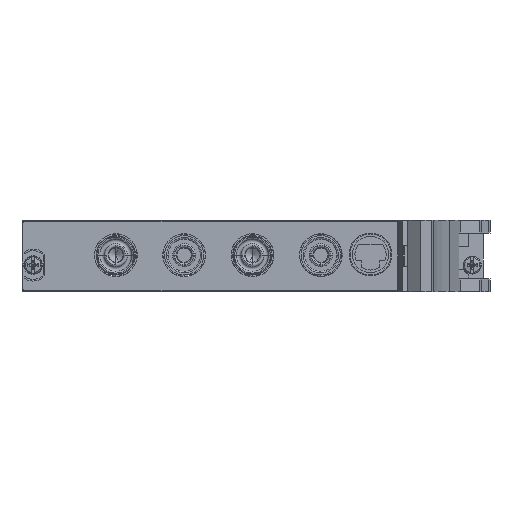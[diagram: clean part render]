
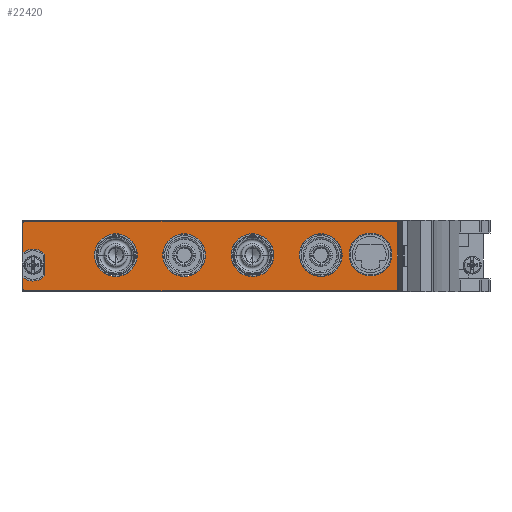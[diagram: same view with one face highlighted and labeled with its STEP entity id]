
A CAD part, left-side view. The second image highlights one B-rep face of the part: STEP entity #22420.
In plain terms, the highlighted planar face has unit normal (-1, 0, 0).
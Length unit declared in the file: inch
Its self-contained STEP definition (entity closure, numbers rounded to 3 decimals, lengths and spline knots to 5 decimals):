
#17046=CARTESIAN_POINT('',(-0.215,0.53465,0.665));
#17047=DIRECTION('',(-1.,0.,0.));
#17048=DIRECTION('',(0.,0.,1.));
#17049=AXIS2_PLACEMENT_3D('',#17046,#17047,#17048);
#17051=DIRECTION('',(0.,1.,0.));
#17052=VECTOR('',#17051,4.07);
#17053=CARTESIAN_POINT('',(-0.215,-3.53535,0.685));
#17054=LINE('',#17053,#17052);
#17055=CARTESIAN_POINT('',(-0.215,-3.53535,0.665));
#17056=DIRECTION('',(-1.,0.,0.));
#17057=DIRECTION('',(0.,-1.,0.));
#17058=AXIS2_PLACEMENT_3D('',#17055,#17056,#17057);
#17060=DIRECTION('',(0.,0.,1.));
#17061=VECTOR('',#17060,0.728);
#17062=CARTESIAN_POINT('',(-0.215,-3.55535,-0.063));
#17063=LINE('',#17062,#17061);
#17064=CARTESIAN_POINT('',(-0.215,-3.53535,-0.063));
#17065=DIRECTION('',(-1.,0.,0.));
#17066=DIRECTION('',(0.,0.,-1.));
#17067=AXIS2_PLACEMENT_3D('',#17064,#17065,#17066);
#17069=DIRECTION('',(0.,-1.,0.));
#17070=VECTOR('',#17069,4.07);
#17071=CARTESIAN_POINT('',(-0.215,0.53465,-0.083));
#17072=LINE('',#17071,#17070);
#17073=CARTESIAN_POINT('',(-0.215,0.53465,-0.063));
#17074=DIRECTION('',(-1.,0.,0.));
#17075=DIRECTION('',(0.,1.,0.));
#17076=AXIS2_PLACEMENT_3D('',#17073,#17074,#17075);
#17078=DIRECTION('',(0.,0.,-1.));
#17079=VECTOR('',#17078,0.12953);
#17080=CARTESIAN_POINT('',(-0.215,0.55465,0.06653));
#17081=LINE('',#17080,#17079);
#17082=CARTESIAN_POINT('',(-0.215,0.44265,0.201));
#17083=DIRECTION('',(1.,0.,0.));
#17084=DIRECTION('',(0.,-0.737,-0.676));
#17085=AXIS2_PLACEMENT_3D('',#17082,#17083,#17084);
#17087=DIRECTION('',(0.,0.,-1.));
#17088=VECTOR('',#17087,0.23651);
#17089=CARTESIAN_POINT('',(-0.215,0.31365,0.31925));
#17090=LINE('',#17089,#17088);
#17091=CARTESIAN_POINT('',(-0.215,0.44265,0.201));
#17092=DIRECTION('',(1.,0.,0.));
#17093=DIRECTION('',(0.,0.64,0.768));
#17094=AXIS2_PLACEMENT_3D('',#17091,#17092,#17093);
#17096=DIRECTION('',(0.,0.,-1.));
#17097=VECTOR('',#17096,0.32953);
#17098=CARTESIAN_POINT('',(-0.215,0.55465,0.665));
#17099=LINE('',#17098,#17097);
#17100=CARTESIAN_POINT('',(-0.215,-0.46535,0.31));
#17101=DIRECTION('',(-1.,0.,0.));
#17102=DIRECTION('',(0.,0.,1.));
#17103=AXIS2_PLACEMENT_3D('',#17100,#17101,#17102);
#17105=CARTESIAN_POINT('',(-0.215,-0.46535,0.31));
#17106=DIRECTION('',(-1.,0.,0.));
#17107=DIRECTION('',(0.,0.,-1.));
#17108=AXIS2_PLACEMENT_3D('',#17105,#17106,#17107);
#17110=CARTESIAN_POINT('',(-0.215,-1.21535,0.31));
#17111=DIRECTION('',(-1.,0.,0.));
#17112=DIRECTION('',(0.,0.,1.));
#17113=AXIS2_PLACEMENT_3D('',#17110,#17111,#17112);
#17115=CARTESIAN_POINT('',(-0.215,-1.21535,0.31));
#17116=DIRECTION('',(-1.,0.,0.));
#17117=DIRECTION('',(0.,0.,-1.));
#17118=AXIS2_PLACEMENT_3D('',#17115,#17116,#17117);
#17120=CARTESIAN_POINT('',(-0.215,-1.96535,0.31));
#17121=DIRECTION('',(-1.,0.,0.));
#17122=DIRECTION('',(0.,0.,1.));
#17123=AXIS2_PLACEMENT_3D('',#17120,#17121,#17122);
#17125=CARTESIAN_POINT('',(-0.215,-1.96535,0.31));
#17126=DIRECTION('',(-1.,0.,0.));
#17127=DIRECTION('',(0.,0.,-1.));
#17128=AXIS2_PLACEMENT_3D('',#17125,#17126,#17127);
#17130=CARTESIAN_POINT('',(-0.215,-2.71535,0.31));
#17131=DIRECTION('',(-1.,0.,0.));
#17132=DIRECTION('',(0.,0.,1.));
#17133=AXIS2_PLACEMENT_3D('',#17130,#17131,#17132);
#17135=CARTESIAN_POINT('',(-0.215,-2.71535,0.31));
#17136=DIRECTION('',(-1.,0.,0.));
#17137=DIRECTION('',(0.,0.,-1.));
#17138=AXIS2_PLACEMENT_3D('',#17135,#17136,#17137);
#17140=CARTESIAN_POINT('',(-0.215,-3.26135,0.318));
#17141=DIRECTION('',(-1.,0.,0.));
#17142=DIRECTION('',(0.,0.,1.));
#17143=AXIS2_PLACEMENT_3D('',#17140,#17141,#17142);
#17145=CARTESIAN_POINT('',(-0.215,-3.26135,0.318));
#17146=DIRECTION('',(-1.,0.,0.));
#17147=DIRECTION('',(0.,0.,-1.));
#17148=AXIS2_PLACEMENT_3D('',#17145,#17146,#17147);
#18905=CARTESIAN_POINT('',(-0.215,0.53465,0.685));
#18906=CARTESIAN_POINT('',(-0.215,0.55465,0.665));
#18907=VERTEX_POINT('',#18905);
#18908=VERTEX_POINT('',#18906);
#18909=CARTESIAN_POINT('',(-0.215,0.55465,0.33547));
#18910=VERTEX_POINT('',#18909);
#18911=CARTESIAN_POINT('',(-0.215,0.31365,0.31925));
#18912=VERTEX_POINT('',#18911);
#18913=CARTESIAN_POINT('',(-0.215,0.31365,0.08275));
#18914=VERTEX_POINT('',#18913);
#18915=CARTESIAN_POINT('',(-0.215,0.55465,0.06653));
#18916=VERTEX_POINT('',#18915);
#18917=CARTESIAN_POINT('',(-0.215,0.55465,-0.063));
#18918=VERTEX_POINT('',#18917);
#18919=CARTESIAN_POINT('',(-0.215,0.53465,-0.083));
#18920=VERTEX_POINT('',#18919);
#18921=CARTESIAN_POINT('',(-0.215,-3.53535,-0.083));
#18922=VERTEX_POINT('',#18921);
#18923=CARTESIAN_POINT('',(-0.215,-3.55535,-0.063));
#18924=VERTEX_POINT('',#18923);
#18925=CARTESIAN_POINT('',(-0.215,-3.55535,0.665));
#18926=VERTEX_POINT('',#18925);
#18927=CARTESIAN_POINT('',(-0.215,-3.53535,0.685));
#18928=VERTEX_POINT('',#18927);
#18929=CARTESIAN_POINT('',(-0.215,-0.46535,0.545));
#18930=CARTESIAN_POINT('',(-0.215,-0.46535,0.075));
#18931=VERTEX_POINT('',#18929);
#18932=VERTEX_POINT('',#18930);
#18933=CARTESIAN_POINT('',(-0.215,-1.21535,0.545));
#18934=CARTESIAN_POINT('',(-0.215,-1.21535,0.075));
#18935=VERTEX_POINT('',#18933);
#18936=VERTEX_POINT('',#18934);
#18937=CARTESIAN_POINT('',(-0.215,-1.96535,0.545));
#18938=CARTESIAN_POINT('',(-0.215,-1.96535,0.075));
#18939=VERTEX_POINT('',#18937);
#18940=VERTEX_POINT('',#18938);
#18941=CARTESIAN_POINT('',(-0.215,-2.71535,0.545));
#18942=CARTESIAN_POINT('',(-0.215,-2.71535,0.075));
#18943=VERTEX_POINT('',#18941);
#18944=VERTEX_POINT('',#18942);
#18945=CARTESIAN_POINT('',(-0.215,-3.26135,0.553));
#18946=CARTESIAN_POINT('',(-0.215,-3.26135,0.083));
#18947=VERTEX_POINT('',#18945);
#18948=VERTEX_POINT('',#18946);
#22371=CARTESIAN_POINT('',(-0.215,0.44265,0.201));
#22372=DIRECTION('',(-1.,0.,0.));
#22373=DIRECTION('',(0.,0.,1.));
#22374=AXIS2_PLACEMENT_3D('',#22371,#22372,#22373);
#22375=PLANE('',#22374);
#22376=ORIENTED_EDGE('',*,*,#22211,.F.);
#22377=ORIENTED_EDGE('',*,*,#22226,.F.);
#22378=ORIENTED_EDGE('',*,*,#22240,.F.);
#22379=ORIENTED_EDGE('',*,*,#22254,.F.);
#22380=ORIENTED_EDGE('',*,*,#22268,.F.);
#22381=ORIENTED_EDGE('',*,*,#22282,.F.);
#22382=ORIENTED_EDGE('',*,*,#22296,.F.);
#22383=ORIENTED_EDGE('',*,*,#22310,.F.);
#22384=ORIENTED_EDGE('',*,*,#22324,.F.);
#22385=ORIENTED_EDGE('',*,*,#22338,.F.);
#22386=ORIENTED_EDGE('',*,*,#22352,.F.);
#22387=ORIENTED_EDGE('',*,*,#22365,.F.);
#22388=EDGE_LOOP('',(#22376,#22377,#22378,#22379,#22380,#22381,#22382,#22383,
#22384,#22385,#22386,#22387));
#22389=FACE_OUTER_BOUND('',#22388,.F.);
#22391=ORIENTED_EDGE('',*,*,#22390,.T.);
#22393=ORIENTED_EDGE('',*,*,#22392,.T.);
#22394=EDGE_LOOP('',(#22391,#22393));
#22395=FACE_BOUND('',#22394,.F.);
#22397=ORIENTED_EDGE('',*,*,#22396,.T.);
#22399=ORIENTED_EDGE('',*,*,#22398,.T.);
#22400=EDGE_LOOP('',(#22397,#22399));
#22401=FACE_BOUND('',#22400,.F.);
#22403=ORIENTED_EDGE('',*,*,#22402,.T.);
#22405=ORIENTED_EDGE('',*,*,#22404,.T.);
#22406=EDGE_LOOP('',(#22403,#22405));
#22407=FACE_BOUND('',#22406,.F.);
#22409=ORIENTED_EDGE('',*,*,#22408,.T.);
#22411=ORIENTED_EDGE('',*,*,#22410,.T.);
#22412=EDGE_LOOP('',(#22409,#22411));
#22413=FACE_BOUND('',#22412,.F.);
#22415=ORIENTED_EDGE('',*,*,#22414,.T.);
#22417=ORIENTED_EDGE('',*,*,#22416,.T.);
#22418=EDGE_LOOP('',(#22415,#22417));
#22419=FACE_BOUND('',#22418,.F.);
#22420=ADVANCED_FACE('',(#22389,#22395,#22401,#22407,#22413,#22419),#22375,.T.);
#17050=CIRCLE('',#17049,0.02);
#17059=CIRCLE('',#17058,0.02);
#17068=CIRCLE('',#17067,0.02);
#17077=CIRCLE('',#17076,0.02);
#17086=CIRCLE('',#17085,0.175);
#17095=CIRCLE('',#17094,0.175);
#17104=CIRCLE('',#17103,0.235);
#17109=CIRCLE('',#17108,0.235);
#17114=CIRCLE('',#17113,0.235);
#17119=CIRCLE('',#17118,0.235);
#17124=CIRCLE('',#17123,0.235);
#17129=CIRCLE('',#17128,0.235);
#17134=CIRCLE('',#17133,0.235);
#17139=CIRCLE('',#17138,0.235);
#17144=CIRCLE('',#17143,0.235);
#17149=CIRCLE('',#17148,0.235);
#22211=EDGE_CURVE('',#18907,#18908,#17050,.T.);
#22226=EDGE_CURVE('',#18928,#18907,#17054,.T.);
#22240=EDGE_CURVE('',#18926,#18928,#17059,.T.);
#22254=EDGE_CURVE('',#18924,#18926,#17063,.T.);
#22268=EDGE_CURVE('',#18922,#18924,#17068,.T.);
#22282=EDGE_CURVE('',#18920,#18922,#17072,.T.);
#22296=EDGE_CURVE('',#18918,#18920,#17077,.T.);
#22310=EDGE_CURVE('',#18916,#18918,#17081,.T.);
#22324=EDGE_CURVE('',#18914,#18916,#17086,.T.);
#22338=EDGE_CURVE('',#18912,#18914,#17090,.T.);
#22352=EDGE_CURVE('',#18910,#18912,#17095,.T.);
#22365=EDGE_CURVE('',#18908,#18910,#17099,.T.);
#22390=EDGE_CURVE('',#18931,#18932,#17104,.T.);
#22392=EDGE_CURVE('',#18932,#18931,#17109,.T.);
#22396=EDGE_CURVE('',#18935,#18936,#17114,.T.);
#22398=EDGE_CURVE('',#18936,#18935,#17119,.T.);
#22402=EDGE_CURVE('',#18939,#18940,#17124,.T.);
#22404=EDGE_CURVE('',#18940,#18939,#17129,.T.);
#22408=EDGE_CURVE('',#18943,#18944,#17134,.T.);
#22410=EDGE_CURVE('',#18944,#18943,#17139,.T.);
#22414=EDGE_CURVE('',#18947,#18948,#17144,.T.);
#22416=EDGE_CURVE('',#18948,#18947,#17149,.T.);
